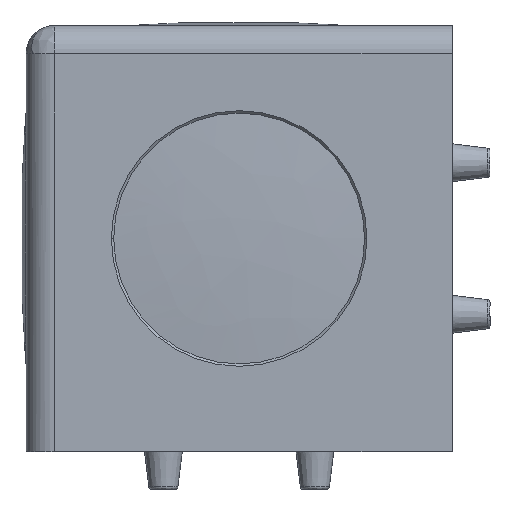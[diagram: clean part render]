
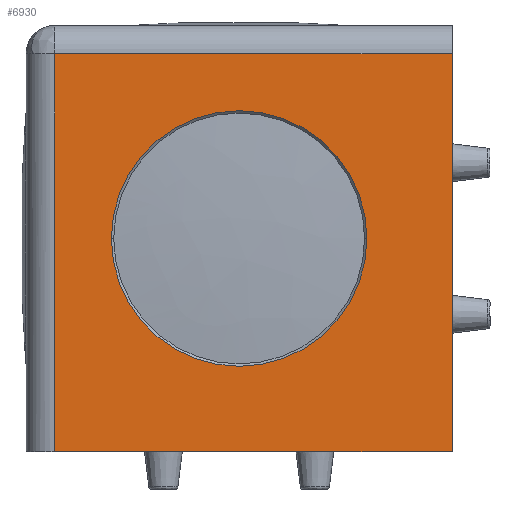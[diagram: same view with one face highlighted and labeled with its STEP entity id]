
A CAD part, front view. The second image highlights one B-rep face of the part: STEP entity #6930.
In plain terms, the highlighted planar face has unit normal (0, -1, 0).
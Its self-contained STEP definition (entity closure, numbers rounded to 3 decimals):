
#653 = DIRECTION ( 'NONE',  ( 0., 0., 1. ) ) ;
#697 = CARTESIAN_POINT ( 'NONE',  ( 29.788, -18.867, 8.58 ) ) ;
#898 = CARTESIAN_POINT ( 'NONE',  ( -6.212, -18.867, -10.92 ) ) ;
#1256 = CARTESIAN_POINT ( 'NONE',  ( -15.212, -18.867, 8.58 ) ) ;
#1416 = EDGE_CURVE ( 'NONE', #8009, #2771, #2225, .T. ) ;
#1605 = VERTEX_POINT ( 'NONE', #4701 ) ;
#1616 = VECTOR ( 'NONE', #2219, 1000. ) ;
#1664 = CARTESIAN_POINT ( 'NONE',  ( 7.288, -18.867, -10.92 ) ) ;
#1833 = DIRECTION ( 'NONE',  ( 0., 0., 1. ) ) ;
#1837 = DIRECTION ( 'NONE',  ( 0., 1., 0. ) ) ;
#1851 = CARTESIAN_POINT ( 'NONE',  ( -15.212, -18.867, 11.58 ) ) ;
#2018 = PLANE ( 'NONE',  #4993 ) ;
#2102 = LINE ( 'NONE', #7343, #6790 ) ;
#2219 = DIRECTION ( 'NONE',  ( 1., 0., 0. ) ) ;
#2225 = LINE ( 'NONE', #10039, #1616 ) ;
#2609 = LINE ( 'NONE', #1256, #9744 ) ;
#2630 = DIRECTION ( 'NONE',  ( 1., 0., 0. ) ) ;
#2771 = VERTEX_POINT ( 'NONE', #8878 ) ;
#2789 = CIRCLE ( 'NONE', #7832, 13.5 ) ;
#2873 = EDGE_LOOP ( 'NONE', ( #5218, #11156, #10048, #8174 ) ) ;
#2918 = VERTEX_POINT ( 'NONE', #4461 ) ;
#3024 = VERTEX_POINT ( 'NONE', #697 ) ;
#3495 = EDGE_LOOP ( 'NONE', ( #8028, #5979 ) ) ;
#4461 = CARTESIAN_POINT ( 'NONE',  ( -12.212, -18.867, 8.58 ) ) ;
#4701 = CARTESIAN_POINT ( 'NONE',  ( 20.788, -18.867, -10.92 ) ) ;
#4993 = AXIS2_PLACEMENT_3D ( 'NONE', #1851, #1837, #1833 ) ;
#5218 = ORIENTED_EDGE ( 'NONE', *, *, #1416, .T. ) ;
#5654 = CIRCLE ( 'NONE', #9124, 13.5 ) ;
#5979 = ORIENTED_EDGE ( 'NONE', *, *, #11115, .F. ) ;
#6215 = EDGE_CURVE ( 'NONE', #2771, #3024, #2102, .T. ) ;
#6486 = DIRECTION ( 'NONE',  ( 1., 0., 0. ) ) ;
#6499 = DIRECTION ( 'NONE',  ( 0., -1., 0. ) ) ;
#6525 = CARTESIAN_POINT ( 'NONE',  ( 7.288, -18.867, -10.92 ) ) ;
#6790 = VECTOR ( 'NONE', #7312, 1000. ) ;
#6930 = ADVANCED_FACE ( 'NONE', ( #9515, #9821 ), #2018, .F. ) ;
#7312 = DIRECTION ( 'NONE',  ( 0., 0., 1. ) ) ;
#7343 = CARTESIAN_POINT ( 'NONE',  ( 29.788, -18.867, 11.58 ) ) ;
#7832 = AXIS2_PLACEMENT_3D ( 'NONE', #6525, #6499, #6486 ) ;
#8009 = VERTEX_POINT ( 'NONE', #8626 ) ;
#8028 = ORIENTED_EDGE ( 'NONE', *, *, #9304, .F. ) ;
#8174 = ORIENTED_EDGE ( 'NONE', *, *, #11649, .F. ) ;
#8202 = DIRECTION ( 'NONE',  ( 0., -1., 0. ) ) ;
#8626 = CARTESIAN_POINT ( 'NONE',  ( -12.212, -18.867, -33.42 ) ) ;
#8738 = DIRECTION ( 'NONE',  ( 1., 0., 0. ) ) ;
#8878 = CARTESIAN_POINT ( 'NONE',  ( 29.788, -18.867, -33.42 ) ) ;
#9028 = VECTOR ( 'NONE', #653, 1000. ) ;
#9124 = AXIS2_PLACEMENT_3D ( 'NONE', #1664, #8202, #2630 ) ;
#9304 = EDGE_CURVE ( 'NONE', #1605, #11701, #2789, .T. ) ;
#9515 = FACE_OUTER_BOUND ( 'NONE', #2873, .T. ) ;
#9744 = VECTOR ( 'NONE', #8738, 1000. ) ;
#9821 = FACE_BOUND ( 'NONE', #3495, .T. ) ;
#10039 = CARTESIAN_POINT ( 'NONE',  ( -15.212, -18.867, -33.42 ) ) ;
#10048 = ORIENTED_EDGE ( 'NONE', *, *, #10914, .F. ) ;
#10223 = CARTESIAN_POINT ( 'NONE',  ( -12.212, -18.867, 11.58 ) ) ;
#10914 = EDGE_CURVE ( 'NONE', #2918, #3024, #2609, .T. ) ;
#11115 = EDGE_CURVE ( 'NONE', #11701, #1605, #5654, .T. ) ;
#11156 = ORIENTED_EDGE ( 'NONE', *, *, #6215, .T. ) ;
#11425 = LINE ( 'NONE', #10223, #9028 ) ;
#11649 = EDGE_CURVE ( 'NONE', #8009, #2918, #11425, .T. ) ;
#11701 = VERTEX_POINT ( 'NONE', #898 ) ;
